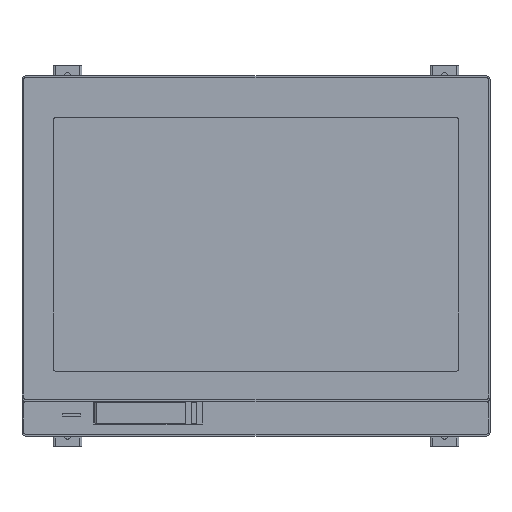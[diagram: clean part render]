
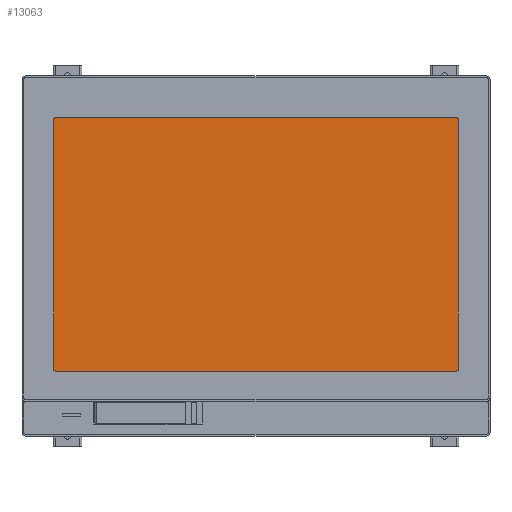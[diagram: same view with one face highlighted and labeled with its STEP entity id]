
A CAD part, top view. The second image highlights one B-rep face of the part: STEP entity #13063.
In plain terms, the highlighted planar face has unit normal (0, 0, 1).
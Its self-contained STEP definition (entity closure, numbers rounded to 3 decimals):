
#3702=CARTESIAN_POINT('',(-108.,67.3,5.6));
#3703=DIRECTION('',(0.,0.,-1.));
#3704=DIRECTION('',(-1.,0.,0.));
#3705=AXIS2_PLACEMENT_3D('',#3702,#3703,#3704);
#3707=DIRECTION('',(1.,0.,0.));
#3708=VECTOR('',#3707,216.);
#3709=CARTESIAN_POINT('',(-108.,68.3,5.6));
#3710=LINE('',#3709,#3708);
#3711=CARTESIAN_POINT('',(108.,67.3,5.6));
#3712=DIRECTION('',(0.,0.,-1.));
#3713=DIRECTION('',(0.,1.,0.));
#3714=AXIS2_PLACEMENT_3D('',#3711,#3712,#3713);
#3716=DIRECTION('',(0.,-1.,0.));
#3717=VECTOR('',#3716,134.6);
#3718=CARTESIAN_POINT('',(109.,67.3,5.6));
#3719=LINE('',#3718,#3717);
#3720=CARTESIAN_POINT('',(108.,-67.3,5.6));
#3721=DIRECTION('',(0.,0.,-1.));
#3722=DIRECTION('',(1.,0.,0.));
#3723=AXIS2_PLACEMENT_3D('',#3720,#3721,#3722);
#3725=DIRECTION('',(-1.,0.,0.));
#3726=VECTOR('',#3725,216.);
#3727=CARTESIAN_POINT('',(108.,-68.3,5.6));
#3728=LINE('',#3727,#3726);
#3729=CARTESIAN_POINT('',(-108.,-67.3,5.6));
#3730=DIRECTION('',(0.,0.,-1.));
#3731=DIRECTION('',(0.,-1.,0.));
#3732=AXIS2_PLACEMENT_3D('',#3729,#3730,#3731);
#3734=DIRECTION('',(0.,1.,0.));
#3735=VECTOR('',#3734,134.6);
#3736=CARTESIAN_POINT('',(-109.,-67.3,5.6));
#3737=LINE('',#3736,#3735);
#7238=CARTESIAN_POINT('',(-109.,67.3,5.6));
#7239=VERTEX_POINT('',#7238);
#7240=CARTESIAN_POINT('',(-109.,-67.3,5.6));
#7241=VERTEX_POINT('',#7240);
#7242=CARTESIAN_POINT('',(-108.,68.3,5.6));
#7243=VERTEX_POINT('',#7242);
#7244=CARTESIAN_POINT('',(108.,68.3,5.6));
#7245=VERTEX_POINT('',#7244);
#7246=CARTESIAN_POINT('',(109.,67.3,5.6));
#7247=VERTEX_POINT('',#7246);
#7248=CARTESIAN_POINT('',(109.,-67.3,5.6));
#7249=VERTEX_POINT('',#7248);
#7250=CARTESIAN_POINT('',(108.,-68.3,5.6));
#7251=VERTEX_POINT('',#7250);
#7252=CARTESIAN_POINT('',(-108.,-68.3,5.6));
#7253=VERTEX_POINT('',#7252);
#13048=CARTESIAN_POINT('',(0.,0.,5.6));
#13049=DIRECTION('',(0.,0.,1.));
#13050=DIRECTION('',(1.,0.,0.));
#13051=AXIS2_PLACEMENT_3D('',#13048,#13049,#13050);
#13052=PLANE('',#13051);
#13053=ORIENTED_EDGE('',*,*,#12958,.T.);
#13054=ORIENTED_EDGE('',*,*,#12972,.T.);
#13055=ORIENTED_EDGE('',*,*,#12986,.T.);
#13056=ORIENTED_EDGE('',*,*,#13000,.T.);
#13057=ORIENTED_EDGE('',*,*,#13014,.T.);
#13058=ORIENTED_EDGE('',*,*,#13028,.T.);
#13059=ORIENTED_EDGE('',*,*,#13041,.T.);
#13060=ORIENTED_EDGE('',*,*,#12943,.T.);
#13061=EDGE_LOOP('',(#13053,#13054,#13055,#13056,#13057,#13058,#13059,#13060));
#13062=FACE_OUTER_BOUND('',#13061,.F.);
#13063=ADVANCED_FACE('',(#13062),#13052,.T.);
#3706=CIRCLE('',#3705,1.);
#3715=CIRCLE('',#3714,1.);
#3724=CIRCLE('',#3723,1.);
#3733=CIRCLE('',#3732,1.);
#12943=EDGE_CURVE('',#7241,#7239,#3737,.T.);
#12958=EDGE_CURVE('',#7239,#7243,#3706,.T.);
#12972=EDGE_CURVE('',#7243,#7245,#3710,.T.);
#12986=EDGE_CURVE('',#7245,#7247,#3715,.T.);
#13000=EDGE_CURVE('',#7247,#7249,#3719,.T.);
#13014=EDGE_CURVE('',#7249,#7251,#3724,.T.);
#13028=EDGE_CURVE('',#7251,#7253,#3728,.T.);
#13041=EDGE_CURVE('',#7253,#7241,#3733,.T.);
